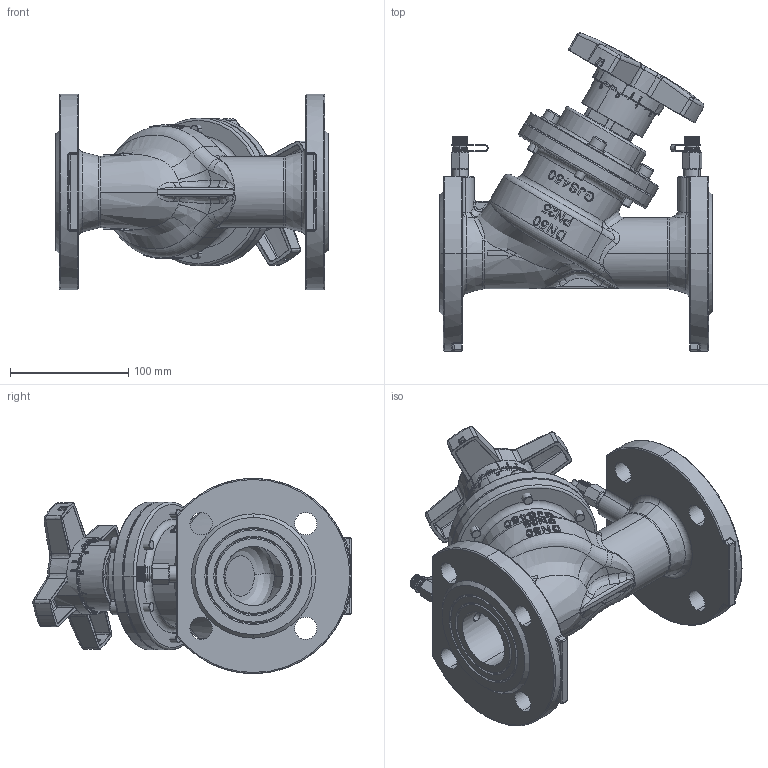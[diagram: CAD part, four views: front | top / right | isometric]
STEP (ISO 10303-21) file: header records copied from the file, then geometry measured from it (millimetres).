
FILE_DESCRIPTION (( 'STEP AP203' ), '1' );
FILE_NAME ('DN50 竣艇佴.STEP', '2024-01-15T09:29:36', ( '' ), ( '' ), 'SwSTEP 2.0', 'SolidWorks 2024', '' );
FILE_SCHEMA (( 'CONFIG_CONTROL_DESIGN' ));
Length unit declared in the file: millimetre
Products named in the file (14): DN50 阀盖 丹弗斯; HW125-TH19-18-07-无圆角; DN50 STEM ASSEM 丹弗斯; DN50 阀体 丹弗斯; HW125-TH19-18-05-无圆角; hexagon socket head cap screws gb_GB_FASTENER_SCREWS_HSHCS M8X30-N; HW125-TH19-18-00 - 丹弗斯; TEST  NOZZLE; plain washers--product grade c gb_GB_FASTENER_WASHER_SMWC 8; DN50 丹弗斯; HW125-TH19-18-03-丹弗斯; HW125-TH19-18-01 丹弗斯; HW125-TH19-18-06-丹弗斯; HW125-TH19-18-02-丹弗斯
Assembly tree (24 placements, depth 3):
  DN50 丹弗斯
    DN50 阀体 丹弗斯
    HW125-TH19-18-00 - 丹弗斯
      HW125-TH19-18-02-丹弗斯
      HW125-TH19-18-01 丹弗斯
      HW125-TH19-18-03-丹弗斯
      HW125-TH19-18-05-无圆角
      HW125-TH19-18-06-丹弗斯
      HW125-TH19-18-07-无圆角
    DN50 STEM ASSEM 丹弗斯
    DN50 阀盖 丹弗斯
    plain washers--product grade c gb_GB_FASTENER_WASHER_SMWC 8  x6
    hexagon socket head cap screws gb_GB_FASTENER_SCREWS_HSHCS M8X30-N  x6
    TEST  NOZZLE  x2
Bounding box: 230 x 268.81 x 165 mm (x, y, z)
Volume: 1608520.4 mm3; surface area: 368038.5 mm2
Topology: 27 solids, 27 shells, 3916 faces, 9713 edges, 6061 vertices
Faces by surface type: plane 1380, bspline 978, cylinder 848, torus 460, cone 185, sphere 65
Entity records: 183838 total; most frequent: CARTESIAN_POINT 106894, ORIENTED_EDGE 17300, DIRECTION 13135, EDGE_CURVE 8650, VERTEX_POINT 5435, AXIS2_PLACEMENT_3D 5025, EDGE_LOOP 3801, FACE_OUTER_BOUND 3495
